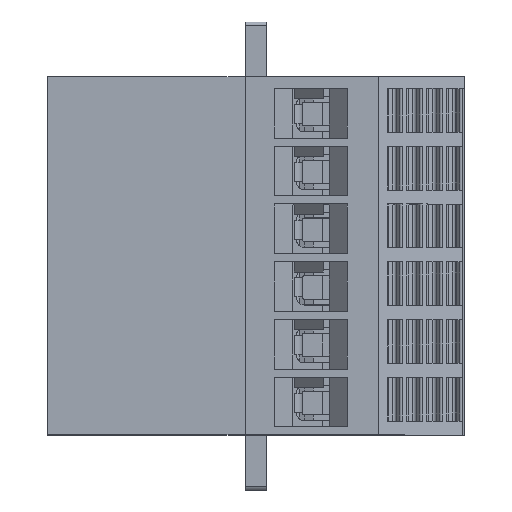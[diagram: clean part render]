
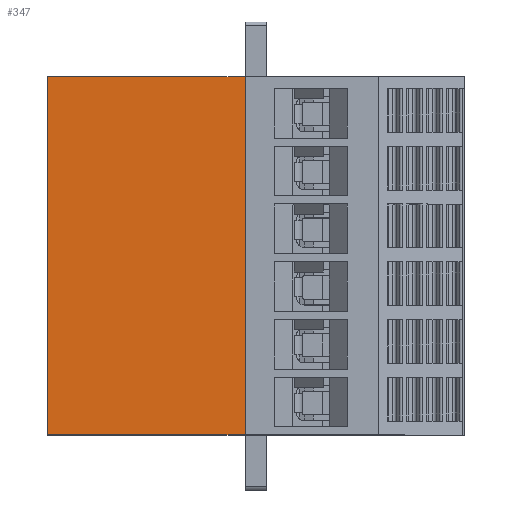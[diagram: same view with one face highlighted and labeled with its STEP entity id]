
A CAD part, top view. The second image highlights one B-rep face of the part: STEP entity #347.
In plain terms, the highlighted planar face has unit normal (0, 0, 1).
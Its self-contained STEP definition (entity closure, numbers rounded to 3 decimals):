
#347=ADVANCED_FACE('',(#87896),#87898,.T.);
#87896=FACE_BOUND('',#87897,.T.);
#87897=EDGE_LOOP('',(#157837,#157838,#157839,#157840));
#87898=PLANE('',#87899);
#87899=AXIS2_PLACEMENT_3D('',#87900,#87901,#87902);
#87900=CARTESIAN_POINT('',(0.,-39.5,9.35));
#87901=DIRECTION('',(0.,0.,1.));
#87902=DIRECTION('',(1.,0.,0.));
#157837=ORIENTED_EDGE('',*,*,#213555,.T.);
#157838=ORIENTED_EDGE('',*,*,#213554,.T.);
#157839=ORIENTED_EDGE('',*,*,#213556,.F.);
#157840=ORIENTED_EDGE('',*,*,#213557,.F.);
#213554=EDGE_CURVE('',#241610,#241612,#241614,.T.);
#213555=EDGE_CURVE('',#241615,#241610,#241616,.T.);
#213556=EDGE_CURVE('',#241617,#241612,#241618,.T.);
#213557=EDGE_CURVE('',#241615,#241617,#241619,.T.);
#241610=VERTEX_POINT('',#288398);
#241612=VERTEX_POINT('',#288402);
#241614=LINE('',#288406,#288407);
#241615=VERTEX_POINT('',#288409);
#241616=LINE('',#288410,#288411);
#241617=VERTEX_POINT('',#288413);
#241618=LINE('',#288414,#288415);
#241619=LINE('',#288417,#288418);
#288398=CARTESIAN_POINT('',(27.,-39.5,9.35));
#288402=CARTESIAN_POINT('',(27.,9.5,9.35));
#288406=CARTESIAN_POINT('',(27.,-39.5,9.35));
#288407=VECTOR('',#288408,1.);
#288408=DIRECTION('',(0.,1.,0.));
#288409=CARTESIAN_POINT('',(0.,-39.5,9.35));
#288410=CARTESIAN_POINT('',(0.,-39.5,9.35));
#288411=VECTOR('',#288412,1.);
#288412=DIRECTION('',(1.,0.,0.));
#288413=CARTESIAN_POINT('',(0.,9.5,9.35));
#288414=CARTESIAN_POINT('',(0.,9.5,9.35));
#288415=VECTOR('',#288416,1.);
#288416=DIRECTION('',(1.,0.,0.));
#288417=CARTESIAN_POINT('',(0.,-39.5,9.35));
#288418=VECTOR('',#288419,1.);
#288419=DIRECTION('',(0.,1.,0.));
